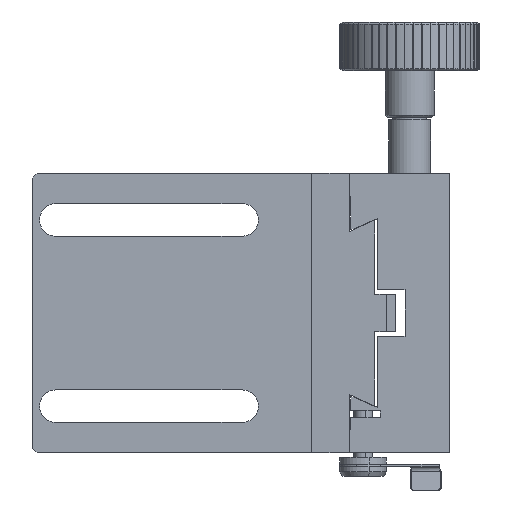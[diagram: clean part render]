
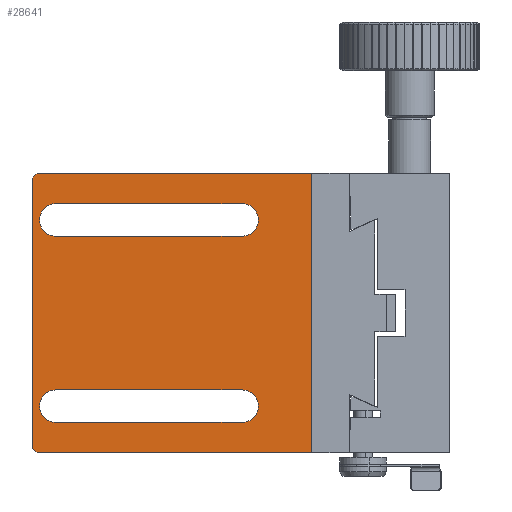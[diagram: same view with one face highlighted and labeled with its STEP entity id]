
A CAD part, front view. The second image highlights one B-rep face of the part: STEP entity #28641.
In plain terms, the highlighted planar face has unit normal (0, -1, 0).
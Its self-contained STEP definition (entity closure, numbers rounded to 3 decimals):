
#100 = VECTOR ( 'NONE', #14091, 1000. ) ;
#112 = CARTESIAN_POINT ( 'NONE',  ( -15., 0., 20. ) ) ;
#483 = DIRECTION ( 'NONE',  ( 0., 0., 1. ) ) ;
#640 = CARTESIAN_POINT ( 'NONE',  ( -55., 0., 20. ) ) ;
#748 = EDGE_CURVE ( 'NONE', #22874, #33373, #21380, .T. ) ;
#754 = LINE ( 'NONE', #34592, #28365 ) ;
#1591 = ORIENTED_EDGE ( 'NONE', *, *, #35395, .T. ) ;
#2282 = VECTOR ( 'NONE', #12871, 1000. ) ;
#2337 = DIRECTION ( 'NONE',  ( -1., 0., 0. ) ) ;
#2550 = DIRECTION ( 'NONE',  ( 0., 0., -1. ) ) ;
#2636 = FACE_OUTER_BOUND ( 'NONE', #22369, .T. ) ;
#2837 = CIRCLE ( 'NONE', #14466, 3.5 ) ;
#3080 = CARTESIAN_POINT ( 'NONE',  ( -60., 0., -30. ) ) ;
#3887 = ORIENTED_EDGE ( 'NONE', *, *, #19573, .T. ) ;
#4096 = CARTESIAN_POINT ( 'NONE',  ( 0., 0., -30. ) ) ;
#4105 = EDGE_LOOP ( 'NONE', ( #7634, #23122, #30116, #36969 ) ) ;
#4185 = EDGE_CURVE ( 'NONE', #18370, #13326, #16562, .T. ) ;
#4453 = ORIENTED_EDGE ( 'NONE', *, *, #4185, .T. ) ;
#4825 = DIRECTION ( 'NONE',  ( 0., 1., 0. ) ) ;
#4849 = VERTEX_POINT ( 'NONE', #32081 ) ;
#4996 = LINE ( 'NONE', #5875, #100 ) ;
#5735 = VERTEX_POINT ( 'NONE', #15615 ) ;
#5875 = CARTESIAN_POINT ( 'NONE',  ( -60., 0., 30. ) ) ;
#6054 = DIRECTION ( 'NONE',  ( -1., 0., 0. ) ) ;
#6160 = DIRECTION ( 'NONE',  ( -0.707, 0., -0.707 ) ) ;
#7163 = CARTESIAN_POINT ( 'NONE',  ( -60., 0., 29. ) ) ;
#7408 = EDGE_CURVE ( 'NONE', #35416, #22874, #2837, .T. ) ;
#7634 = ORIENTED_EDGE ( 'NONE', *, *, #13611, .T. ) ;
#7688 = EDGE_CURVE ( 'NONE', #5735, #23241, #13906, .T. ) ;
#8189 = CARTESIAN_POINT ( 'NONE',  ( -60., 0., -29. ) ) ;
#8292 = ORIENTED_EDGE ( 'NONE', *, *, #17563, .T. ) ;
#8636 = VERTEX_POINT ( 'NONE', #7163 ) ;
#8737 = CARTESIAN_POINT ( 'NONE',  ( -55., 0., -16.5 ) ) ;
#8888 = LINE ( 'NONE', #34372, #24052 ) ;
#9796 = DIRECTION ( 'NONE',  ( 0., 0., -1. ) ) ;
#9881 = ORIENTED_EDGE ( 'NONE', *, *, #25911, .T. ) ;
#9919 = CARTESIAN_POINT ( 'NONE',  ( -15., 0., 23.5 ) ) ;
#10628 = CARTESIAN_POINT ( 'NONE',  ( -60., 0., 16.5 ) ) ;
#10752 = CARTESIAN_POINT ( 'NONE',  ( 0., 0., 30. ) ) ;
#10911 = CARTESIAN_POINT ( 'NONE',  ( -15., 0., -16.5 ) ) ;
#10984 = ORIENTED_EDGE ( 'NONE', *, *, #25533, .T. ) ;
#10998 = FACE_BOUND ( 'NONE', #4105, .T. ) ;
#12665 = CARTESIAN_POINT ( 'NONE',  ( -55., 0., 23.5 ) ) ;
#12871 = DIRECTION ( 'NONE',  ( 1., 0., 0. ) ) ;
#13326 = VERTEX_POINT ( 'NONE', #9919 ) ;
#13611 = EDGE_CURVE ( 'NONE', #33373, #30374, #31558, .T. ) ;
#13667 = CIRCLE ( 'NONE', #13883, 3.5 ) ;
#13796 = ORIENTED_EDGE ( 'NONE', *, *, #26398, .T. ) ;
#13883 = AXIS2_PLACEMENT_3D ( 'NONE', #640, #28899, #26173 ) ;
#13906 = LINE ( 'NONE', #34368, #34426 ) ;
#14091 = DIRECTION ( 'NONE',  ( -1., 0., 0. ) ) ;
#14229 = DIRECTION ( 'NONE',  ( 0., -1., 0. ) ) ;
#14278 = CARTESIAN_POINT ( 'NONE',  ( 0., 0., -30. ) ) ;
#14466 = AXIS2_PLACEMENT_3D ( 'NONE', #33123, #4825, #24896 ) ;
#14655 = CARTESIAN_POINT ( 'NONE',  ( -60., 0., 23.5 ) ) ;
#15615 = CARTESIAN_POINT ( 'NONE',  ( -59., 0., -30. ) ) ;
#16491 = CARTESIAN_POINT ( 'NONE',  ( -55., 0., -23.5 ) ) ;
#16500 = VERTEX_POINT ( 'NONE', #22588 ) ;
#16562 = LINE ( 'NONE', #14655, #32668 ) ;
#17170 = PLANE ( 'NONE',  #26387 ) ;
#17409 = CARTESIAN_POINT ( 'NONE',  ( -55., 0., 16.5 ) ) ;
#17488 = DIRECTION ( 'NONE',  ( 1., 0., 0. ) ) ;
#17499 = DIRECTION ( 'NONE',  ( 0., 1., 0. ) ) ;
#17563 = EDGE_CURVE ( 'NONE', #4849, #36234, #34464, .T. ) ;
#17879 = VECTOR ( 'NONE', #2337, 1000. ) ;
#18370 = VERTEX_POINT ( 'NONE', #12665 ) ;
#19573 = EDGE_CURVE ( 'NONE', #8636, #16500, #35669, .T. ) ;
#19600 = DIRECTION ( 'NONE',  ( 0., 0., -1. ) ) ;
#19811 = EDGE_CURVE ( 'NONE', #30374, #35416, #8888, .T. ) ;
#20708 = DIRECTION ( 'NONE',  ( 0., 1., 0. ) ) ;
#21106 = CARTESIAN_POINT ( 'NONE',  ( -60., 0., -16.5 ) ) ;
#21380 = LINE ( 'NONE', #21106, #2282 ) ;
#21956 = EDGE_LOOP ( 'NONE', ( #13796, #8292, #9881, #4453 ) ) ;
#22369 = EDGE_LOOP ( 'NONE', ( #25496, #27654, #31923, #10984, #3887, #1591 ) ) ;
#22488 = DIRECTION ( 'NONE',  ( 0.707, 0., -0.707 ) ) ;
#22588 = CARTESIAN_POINT ( 'NONE',  ( -60., 0., -29. ) ) ;
#22874 = VERTEX_POINT ( 'NONE', #8737 ) ;
#23122 = ORIENTED_EDGE ( 'NONE', *, *, #19811, .T. ) ;
#23161 = VECTOR ( 'NONE', #2550, 1000. ) ;
#23241 = VERTEX_POINT ( 'NONE', #14278 ) ;
#24052 = VECTOR ( 'NONE', #6054, 1000. ) ;
#24519 = VECTOR ( 'NONE', #22488, 1000. ) ;
#24896 = DIRECTION ( 'NONE',  ( 0., 0., 1. ) ) ;
#25496 = ORIENTED_EDGE ( 'NONE', *, *, #7688, .T. ) ;
#25533 = EDGE_CURVE ( 'NONE', #30831, #8636, #754, .T. ) ;
#25772 = FACE_BOUND ( 'NONE', #21956, .T. ) ;
#25911 = EDGE_CURVE ( 'NONE', #36234, #18370, #13667, .T. ) ;
#26173 = DIRECTION ( 'NONE',  ( 0., 0., 1. ) ) ;
#26352 = DIRECTION ( 'NONE',  ( 1., 0., 0. ) ) ;
#26387 = AXIS2_PLACEMENT_3D ( 'NONE', #3080, #14229, #19600 ) ;
#26398 = EDGE_CURVE ( 'NONE', #13326, #4849, #30558, .T. ) ;
#27313 = VERTEX_POINT ( 'NONE', #10752 ) ;
#27524 = AXIS2_PLACEMENT_3D ( 'NONE', #112, #17499, #483 ) ;
#27654 = ORIENTED_EDGE ( 'NONE', *, *, #31576, .F. ) ;
#28365 = VECTOR ( 'NONE', #6160, 1000. ) ;
#28641 = ADVANCED_FACE ( 'NONE', ( #2636, #25772, #10998 ), #17170, .T. ) ;
#28899 = DIRECTION ( 'NONE',  ( 0., 1., 0. ) ) ;
#29685 = DIRECTION ( 'NONE',  ( 0., 0., 1. ) ) ;
#30116 = ORIENTED_EDGE ( 'NONE', *, *, #7408, .T. ) ;
#30374 = VERTEX_POINT ( 'NONE', #31755 ) ;
#30558 = CIRCLE ( 'NONE', #27524, 3.5 ) ;
#30831 = VERTEX_POINT ( 'NONE', #33851 ) ;
#31217 = AXIS2_PLACEMENT_3D ( 'NONE', #34609, #20708, #29685 ) ;
#31558 = CIRCLE ( 'NONE', #31217, 3.5 ) ;
#31576 = EDGE_CURVE ( 'NONE', #27313, #23241, #34744, .T. ) ;
#31755 = CARTESIAN_POINT ( 'NONE',  ( -15., 0., -23.5 ) ) ;
#31923 = ORIENTED_EDGE ( 'NONE', *, *, #34548, .T. ) ;
#32081 = CARTESIAN_POINT ( 'NONE',  ( -15., 0., 16.5 ) ) ;
#32668 = VECTOR ( 'NONE', #17488, 1000. ) ;
#33123 = CARTESIAN_POINT ( 'NONE',  ( -55., 0., -20. ) ) ;
#33373 = VERTEX_POINT ( 'NONE', #10911 ) ;
#33851 = CARTESIAN_POINT ( 'NONE',  ( -59., 0., 30. ) ) ;
#33917 = LINE ( 'NONE', #8189, #24519 ) ;
#34368 = CARTESIAN_POINT ( 'NONE',  ( 0., 0., -30. ) ) ;
#34372 = CARTESIAN_POINT ( 'NONE',  ( -60., 0., -23.5 ) ) ;
#34426 = VECTOR ( 'NONE', #26352, 1000. ) ;
#34464 = LINE ( 'NONE', #10628, #17879 ) ;
#34548 = EDGE_CURVE ( 'NONE', #27313, #30831, #4996, .T. ) ;
#34592 = CARTESIAN_POINT ( 'NONE',  ( -59., 0., 30. ) ) ;
#34609 = CARTESIAN_POINT ( 'NONE',  ( -15., 0., -20. ) ) ;
#34744 = LINE ( 'NONE', #4096, #36500 ) ;
#35395 = EDGE_CURVE ( 'NONE', #16500, #5735, #33917, .T. ) ;
#35416 = VERTEX_POINT ( 'NONE', #16491 ) ;
#35658 = CARTESIAN_POINT ( 'NONE',  ( -60., 0., -30. ) ) ;
#35669 = LINE ( 'NONE', #35658, #23161 ) ;
#36234 = VERTEX_POINT ( 'NONE', #17409 ) ;
#36500 = VECTOR ( 'NONE', #9796, 1000. ) ;
#36969 = ORIENTED_EDGE ( 'NONE', *, *, #748, .T. ) ;
